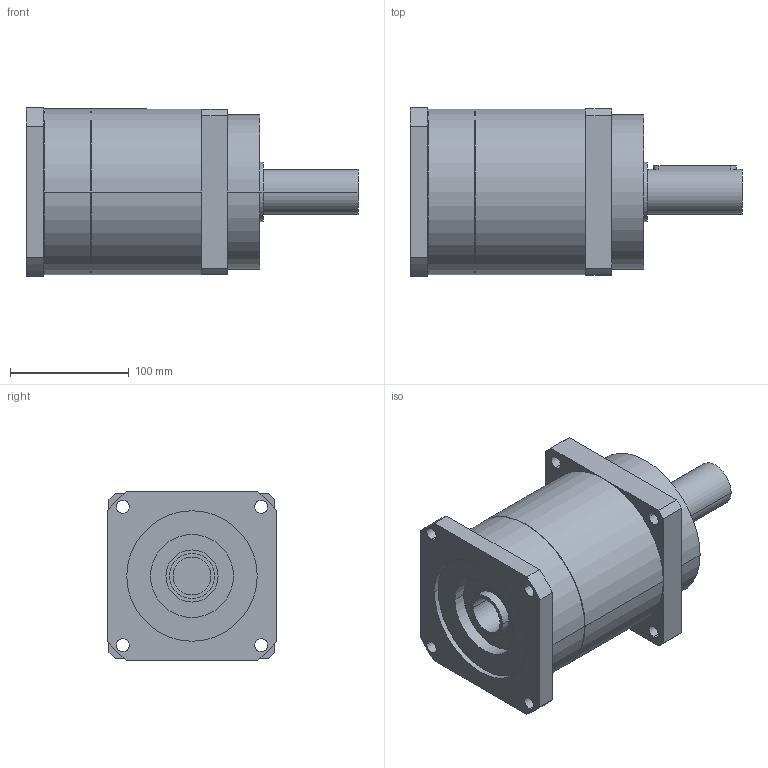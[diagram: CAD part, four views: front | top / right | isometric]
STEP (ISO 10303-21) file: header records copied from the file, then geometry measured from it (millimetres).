
FILE_DESCRIPTION(('CoCreate Modeling STEP Export'),'2;1');
FILE_NAME('GPR150_ig-3-4-5-7_38_B5_32_P14.stp','2014-08-19T16:43:04',(''),(''),'CoCreate Modeling STEP processor for AP214 (Solid Model)','CoCreate Modeling 16.00C 25-Feb-2009 (C) Parametric Technology GmbH','');
FILE_SCHEMA(('AUTOMOTIVE_DESIGN { 1 0 10303 214 1 1 1 1 }'));
Length unit declared in the file: millimetre
Products named in the file (2): GPR150_ig-3-4-5-7_38_B5_32_P14
Assembly tree (1 placements, depth 2):
  GPR150_ig-3-4-5-7_38_B5_32_P14
    GPR150_ig-3-4-5-7_38_B5_32_P14
Bounding box: 280 x 142 x 142 mm (x, y, z)
Volume: 3078375.3 mm3; surface area: 164765.3 mm2
Topology: 1 solids, 1 shells, 81 faces, 220 edges, 150 vertices
Faces by surface type: cylinder 48, plane 27, cone 6
Entity records: 2325 total; most frequent: ORIENTED_EDGE 436, CARTESIAN_POINT 431, DIRECTION 330, EDGE_CURVE 218, VERTEX_POINT 150, AXIS2_PLACEMENT_3D 121, EDGE_LOOP 108, VECTOR 88
